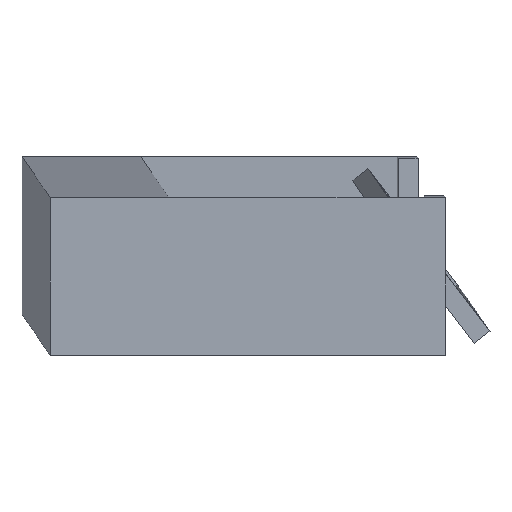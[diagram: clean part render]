
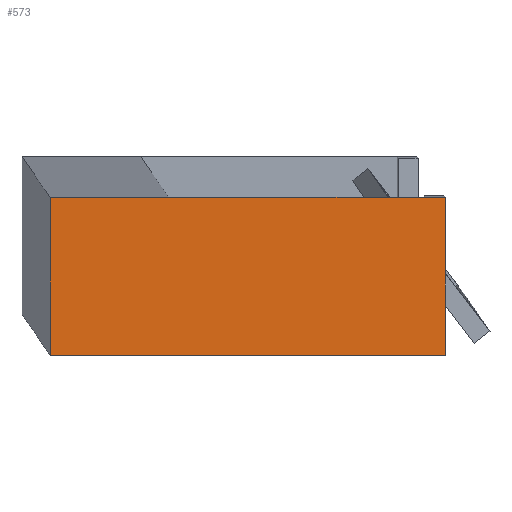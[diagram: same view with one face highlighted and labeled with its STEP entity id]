
A CAD part, top view. The second image highlights one B-rep face of the part: STEP entity #573.
In plain terms, the highlighted planar face has unit normal (0.008, -0.013, 1) as drawn and (0, 0, 1) by its records, which use the part's own axes.
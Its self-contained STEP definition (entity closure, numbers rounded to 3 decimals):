
#47=LINE('',#912,#107);
#52=LINE('',#921,#112);
#59=LINE('',#934,#119);
#60=LINE('',#936,#120);
#107=VECTOR('',#756,10.);
#112=VECTOR('',#763,10.);
#119=VECTOR('',#776,10.);
#120=VECTOR('',#779,10.);
#159=PLANE('',#674);
#199=FACE_OUTER_BOUND('',#236,.T.);
#236=EDGE_LOOP('',(#446,#447,#448,#449));
#286=VERTEX_POINT('',#910);
#287=VERTEX_POINT('',#911);
#290=VERTEX_POINT('',#920);
#293=VERTEX_POINT('',#932);
#340=EDGE_CURVE('',#286,#287,#47,.T.);
#345=EDGE_CURVE('',#290,#287,#52,.T.);
#352=EDGE_CURVE('',#286,#293,#59,.T.);
#353=EDGE_CURVE('',#290,#293,#60,.T.);
#446=ORIENTED_EDGE('',*,*,#352,.T.);
#447=ORIENTED_EDGE('',*,*,#353,.F.);
#448=ORIENTED_EDGE('',*,*,#345,.T.);
#449=ORIENTED_EDGE('',*,*,#340,.F.);
#573=ADVANCED_FACE('',(#199),#159,.T.);
#674=AXIS2_PLACEMENT_3D('',#935,#777,#778);
#756=DIRECTION('',(-1.,0.,0.));
#763=DIRECTION('',(0.,-1.,0.));
#776=DIRECTION('',(0.,1.,0.));
#777=DIRECTION('center_axis',(0.,0.,1.));
#778=DIRECTION('ref_axis',(1.,0.,0.));
#779=DIRECTION('',(1.,0.,0.));
#910=CARTESIAN_POINT('',(58.887,-20.,450.));
#911=CARTESIAN_POINT('',(-41.113,-20.,450.));
#912=CARTESIAN_POINT('',(-41.113,-20.,450.));
#920=CARTESIAN_POINT('',(-41.113,20.,450.));
#921=CARTESIAN_POINT('',(-41.113,0.,450.));
#932=CARTESIAN_POINT('',(58.887,20.,450.));
#934=CARTESIAN_POINT('',(58.887,0.,450.));
#935=CARTESIAN_POINT('Origin',(-41.113,0.,450.));
#936=CARTESIAN_POINT('',(-41.113,20.,450.));
